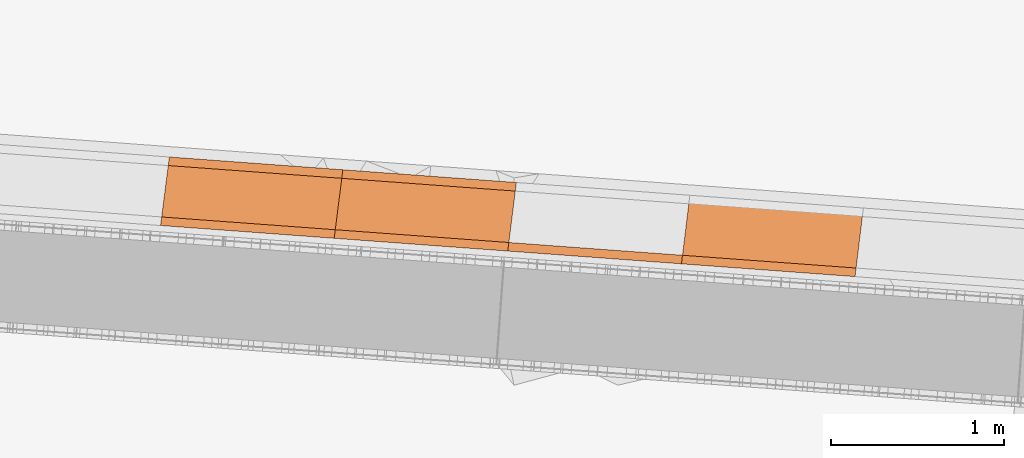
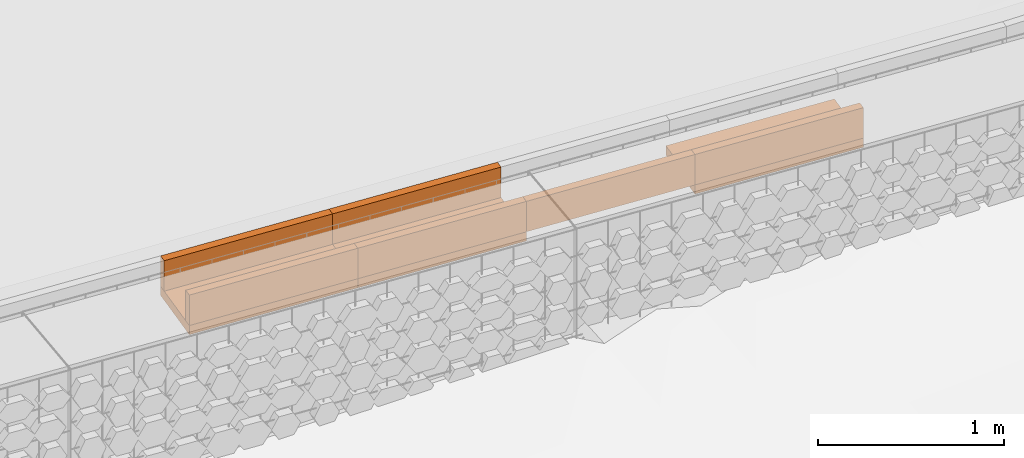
# Not in any storey, part 29 of 45: 9 proxies.
"""IFC4 model written with IfcOpenShell, lengths in metres."""

import ifcopenshell
import ifcopenshell.guid

model = None  # the IFC model being written
_history = None  # IfcOwnerHistory: only IFC2X3 demands one
_inside = {}  # id of a spatial element -> (the spatial element, [elements in it])
_under = {}  # id of a project, library or spatial element -> (it, [spatial elements below it])
_declared = {}  # id of a project -> (the project, [libraries it declares])
_typed = {}  # id of a type object -> (the type object, [elements of that type])
_made_of = {}  # id of a material, layer set ... -> (it, [elements and type objects made of it])


def new_model(schema):
    """Start an empty IFC model of exactly this schema.

    Asked for "IFC4X3", IfcOpenShell would pick the latest addendum, in which some entities
    have other attributes; the version numbers below select the first issue.
    IFC2X3 requires an IfcOwnerHistory on every rooted entity: one is made here for all.
    """
    global model, _history
    if schema == "IFC4X3":
        model = ifcopenshell.file(schema_version=(4, 3, 0, 0))
    else:
        model = ifcopenshell.file(schema=schema)
    _inside.clear()
    _under.clear()
    _declared.clear()
    _typed.clear()
    _made_of.clear()
    _history = None
    if model.schema == "IFC2X3":
        org = make("IfcOrganization", Name="unknown")
        user = make(
            "IfcPersonAndOrganization",
            ThePerson=make("IfcPerson", FamilyName="unknown"),
            TheOrganization=org,
        )
        app = make(
            "IfcApplication",
            ApplicationDeveloper=org,
            Version="unknown",
            ApplicationFullName="unknown",
            ApplicationIdentifier="unknown",
        )
        _history = make(
            "IfcOwnerHistory",
            OwningUser=user,
            OwningApplication=app,
            ChangeAction="ADDED",
            CreationDate=0,
        )
    return model


def make(cls, **values):
    """One entity of the class cls with the attributes given. An attribute that is None is left unset."""
    return model.create_entity(
        cls, **{name: value for name, value in values.items() if value is not None}
    )


def rooted(cls, **values):
    """An entity with a GlobalId (a new one), such as an element, a storey or a relation."""
    return make(cls, GlobalId=ifcopenshell.guid.new(), OwnerHistory=_history, **values)


def si_unit(unit_type, name, prefix=None):
    """IfcSIUnit, for example si_unit("LENGTHUNIT", "METRE", prefix="MILLI")."""
    return make("IfcSIUnit", UnitType=unit_type, Prefix=prefix, Name=name)


def assignment(units):
    """IfcUnitAssignment: the units of a project."""
    return None if units is None else make("IfcUnitAssignment", Units=units)


def point(xyz):
    """IfcCartesianPoint."""
    return None if xyz is None else make("IfcCartesianPoint", Coordinates=xyz)


def direction(xyz):
    """IfcDirection."""
    return None if xyz is None else make("IfcDirection", DirectionRatios=xyz)


def frame(location, z_axis=None, x_axis=None):
    """IfcAxis2Placement3D, a coordinate frame: its origin and axes. An axis left out is left unset."""
    return make(
        "IfcAxis2Placement3D",
        Location=point(location),
        Axis=direction(z_axis),
        RefDirection=direction(x_axis),
    )


def origin_with_axes():
    """The frame at (0, 0, 0) with the z axis (0, 0, 1) and the x axis (1, 0, 0) written out."""
    return frame((0.0, 0.0, 0.0), z_axis=(0.0, 0.0, 1.0), x_axis=(1.0, 0.0, 0.0))


def place(relative_to, where):
    """IfcLocalPlacement: puts the frame where relative to a parent placement (None: the world)."""
    return make(
        "IfcLocalPlacement", PlacementRelTo=relative_to, RelativePlacement=where
    )


def context(
    kind, dimensions, precision=None, world=None, true_north=None, identifier=None
):
    """IfcGeometricRepresentationContext, for example the 3D "Model" context."""
    return make(
        "IfcGeometricRepresentationContext",
        ContextIdentifier=identifier,
        ContextType=kind,
        CoordinateSpaceDimension=dimensions,
        Precision=precision,
        WorldCoordinateSystem=world,
        TrueNorth=true_north,
    )


def subcontext(parent, identifier, kind, view, scale=None):
    """IfcGeometricRepresentationSubContext, for example "Body" below "Model"."""
    return make(
        "IfcGeometricRepresentationSubContext",
        ContextIdentifier=identifier,
        ContextType=kind,
        ParentContext=parent,
        TargetScale=scale,
        TargetView=view,
    )


def project(units=None, contexts=None):
    """IfcProject with its units and contexts."""
    return rooted(
        "IfcProject",
        Name="project",
        RepresentationContexts=contexts,
        UnitsInContext=assignment(units),
    )


def spatial(cls, under=None, at=None, **own):
    """A site, building, storey or space (cls), placed at a placement, below another one or the project."""
    s = rooted(cls, ObjectPlacement=at, **own)
    if under is not None:
        _under.setdefault(under.id(), (under, []))[1].append(s)
    return s


def point_list(points):
    """IfcCartesianPointList2D or 3D."""
    cls = (
        "IfcCartesianPointList2D" if len(points[0]) == 2 else "IfcCartesianPointList3D"
    )
    return make(cls, CoordList=points)


def polygons(points, faces, closed=None, point_numbers=None):
    """IfcPolygonalFaceSet: a face is its outer loop, then its inner loops; points numbered from 1."""
    made = []
    for loops in faces:
        if len(loops) == 1:
            made.append(make("IfcIndexedPolygonalFace", CoordIndex=loops[0]))
        else:
            made.append(
                make(
                    "IfcIndexedPolygonalFaceWithVoids",
                    CoordIndex=loops[0],
                    InnerCoordIndices=loops[1:],
                )
            )
    return make(
        "IfcPolygonalFaceSet",
        Coordinates=point_list(points),
        Closed=closed,
        Faces=made,
        PnIndex=point_numbers,
    )


def shape(context_of_items, identifier, shape_type, items):
    """IfcShapeRepresentation: the items that make up one representation, for example the "Body"."""
    return make(
        "IfcShapeRepresentation",
        ContextOfItems=context_of_items,
        RepresentationIdentifier=identifier,
        RepresentationType=shape_type,
        Items=items,
    )


def material(Name=None, Category=None):
    """IfcMaterial."""
    return make("IfcMaterial", Name=Name, Category=Category)


def made_of(thing, what):
    """Note that an element or type object is made of a material, layer set ...; save() writes the relation."""
    if what is not None:
        _made_of.setdefault(what.id(), (what, []))[1].append(thing)
    return thing


def element(
    cls,
    number,
    at=None,
    inside=None,
    cuts=None,
    type_object=None,
    material=None,
    context=None,
    identifier="Body",
    shape_type=None,
    held_by="IfcProductDefinitionShape",
    body=None,
    shapes=None,
    **own,
):
    """One element of the class cls, such as IfcWall. Its Tag is "e" and its number.

    at: its placement. inside: the storey or other place that contains it. cuts: it is an
    opening in that element (IfcRelVoidsElement). A single representation is given by context,
    identifier, shape_type and body (its items); several are given by shapes. held_by: the class
    of the entity that holds the representations. save() writes the other relations.
    """
    e = rooted(cls, Tag="e%d" % number, ObjectPlacement=at, **own)
    if body is not None:
        shapes = [shape(context, identifier, shape_type, body)]
    if shapes is not None:
        e.Representation = make(held_by, Representations=shapes)
    if inside is not None:
        _inside.setdefault(inside.id(), (inside, []))[1].append(e)
    if cuts is not None:
        rooted(
            "IfcRelVoidsElement", RelatingBuildingElement=cuts, RelatedOpeningElement=e
        )
    if type_object is not None:
        _typed.setdefault(type_object.id(), (type_object, []))[1].append(e)
    return made_of(e, material)


def aggregate(whole, parts):
    """IfcRelAggregates: a whole, such as a stair, and the parts it consists of."""
    return rooted("IfcRelAggregates", RelatingObject=whole, RelatedObjects=parts)


def save(model, path):
    """Write the relations noted so far, then the file.

    IfcRelAggregates (storeys below a building ...), IfcRelContainedInSpatialStructure (elements
    in a storey), IfcRelDefinesByType, IfcRelAssociatesMaterial and IfcRelDeclares: one each for
    every whole, place, type object, material and project.
    """
    for whole, parts in _under.values():
        aggregate(whole, parts)
    for where, things in _inside.values():
        rooted(
            "IfcRelContainedInSpatialStructure",
            RelatedElements=things,
            RelatingStructure=where,
        )
    for kind, things in _typed.values():
        rooted("IfcRelDefinesByType", RelatedObjects=things, RelatingType=kind)
    for what, things in _made_of.values():
        rooted("IfcRelAssociatesMaterial", RelatedObjects=things, RelatingMaterial=what)
    for by, libraries in _declared.values():
        rooted("IfcRelDeclares", RelatingContext=by, RelatedDefinitions=libraries)
    model.write(path)


model = new_model("IFC4")

# Units and contexts
model_context = context("Model", 3, precision=1e-05, world=origin_with_axes(), true_north=direction((0.0, 1.0)))
body_context = subcontext(model_context, "Body", "Model", "MODEL_VIEW")
ifc_project = project(units=[si_unit("VOLUMEUNIT", "CUBIC_METRE"), si_unit("LENGTHUNIT", "METRE"), si_unit("AREAUNIT", "SQUARE_METRE")], contexts=[model_context])

# Site
site_placement = place(None, origin_with_axes())
site = spatial("IfcSite", under=ifc_project, at=site_placement, Name="Lares · Rua das Mercês · artigo 4771")

# Proxies
ifc_material = material(Name="Caleiras · betão", Category="concrete")
proxy_1_placement = place(site_placement, frame((0.0, 0.0, 0.0), z_axis=(0.0, 0.0, 1.0), x_axis=(1.0, -1.03767253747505e-17, 0.0)))
element("IfcBuildingElementProxy", 1, at=proxy_1_placement, inside=site, material=ifc_material, Name="Acesso · canal lateral", ObjectType="Acesso · canal lateral", PredefinedType="USERDEFINED", context=body_context, shape_type="Tessellation", body=[
    polygons([(62.6476085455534, 1.56480043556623, 15.234), (62.6982380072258, 1.96158332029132, 15.234), (63.7029604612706, 1.88769966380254, 15.235), (63.6523309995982, 1.49091677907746, 15.235), (62.6476085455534, 1.56480043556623, 15.294), (62.6982380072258, 1.96158332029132, 15.294), (63.7029604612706, 1.88769966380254, 15.295), (63.6523309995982, 1.49091677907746, 15.295)], [[[4, 3, 2, 1]], [[5, 6, 7, 8]], [[1, 2, 6, 5]], [[2, 3, 7, 6]], [[3, 4, 8, 7]], [[4, 1, 5, 8]]]),
])
proxy_2_placement = place(site_placement, frame((0.0, 0.0, 0.0), z_axis=(0.0, 0.0, 1.0), x_axis=(1.0, -1.03767253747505e-17, 0.0)))
element("IfcBuildingElementProxy", 2, at=proxy_2_placement, inside=site, material=ifc_material, Name="Acesso · canal lateral", ObjectType="Acesso · canal lateral", PredefinedType="USERDEFINED", context=body_context, shape_type="Tessellation", body=[
    polygons([(62.6476085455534, 1.56480043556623, 15.294), (62.6539372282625, 1.61439829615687, 15.294), (63.6586596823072, 1.54051463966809, 15.295), (63.6523309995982, 1.49091677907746, 15.295), (62.6476085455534, 1.56480043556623, 15.494), (62.6539372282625, 1.61439829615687, 15.494), (63.6586596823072, 1.54051463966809, 15.495), (63.6523309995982, 1.49091677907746, 15.495)], [[[4, 3, 2, 1]], [[5, 6, 7, 8]], [[1, 2, 6, 5]], [[2, 3, 7, 6]], [[3, 4, 8, 7]], [[4, 1, 5, 8]]]),
])
proxy_3_placement = place(site_placement, frame((0.0, 0.0, 0.0), z_axis=(0.0, 0.0, 1.0), x_axis=(1.0, -1.03767253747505e-17, 0.0)))
element("IfcBuildingElementProxy", 3, at=proxy_3_placement, inside=site, material=ifc_material, Name="Acesso · canal lateral", ObjectType="Acesso · canal lateral", PredefinedType="USERDEFINED", context=body_context, shape_type="Tessellation", body=[
    polygons([(62.6919093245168, 1.91198545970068, 15.294), (62.6982380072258, 1.96158332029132, 15.294), (63.7029604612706, 1.88769966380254, 15.295), (63.6966317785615, 1.83810180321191, 15.295), (62.6919093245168, 1.91198545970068, 15.494), (62.6982380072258, 1.96158332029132, 15.494), (63.7029604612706, 1.88769966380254, 15.495), (63.6966317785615, 1.83810180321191, 15.495)], [[[4, 3, 2, 1]], [[5, 6, 7, 8]], [[1, 2, 6, 5]], [[2, 3, 7, 6]], [[3, 4, 8, 7]], [[4, 1, 5, 8]]]),
])
proxy_4_placement = place(site_placement, frame((0.0, 0.0, 0.0), z_axis=(0.0, 0.0, 1.0), x_axis=(1.0, -1.03767253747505e-17, 0.0)))
element("IfcBuildingElementProxy", 4, at=proxy_4_placement, inside=site, material=ifc_material, Name="Acesso · canal lateral", ObjectType="Acesso · canal lateral", PredefinedType="USERDEFINED", context=body_context, shape_type="Tessellation", body=[
    polygons([(63.6526536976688, 1.49087586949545, 15.235), (63.7026377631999, 1.88774057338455, 15.235), (64.7073722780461, 1.81385608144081, 15.236), (64.657388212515, 1.41699137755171, 15.236), (63.6526536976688, 1.49087586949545, 15.295), (63.7026377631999, 1.88774057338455, 15.295), (64.7073722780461, 1.81385608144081, 15.296), (64.657388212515, 1.41699137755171, 15.296)], [[[4, 3, 2, 1]], [[5, 6, 7, 8]], [[1, 2, 6, 5]], [[2, 3, 7, 6]], [[3, 4, 8, 7]], [[4, 1, 5, 8]]]),
])
proxy_5_placement = place(site_placement, frame((0.0, 0.0, 0.0), z_axis=(0.0, 0.0, 1.0), x_axis=(1.0, -1.03767253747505e-17, 0.0)))
element("IfcBuildingElementProxy", 5, at=proxy_5_placement, inside=site, material=ifc_material, Name="Acesso · canal lateral", ObjectType="Acesso · canal lateral", PredefinedType="USERDEFINED", context=body_context, shape_type="Tessellation", body=[
    polygons([(63.6526536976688, 1.49087586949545, 15.295), (63.6589017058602, 1.54048395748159, 15.295), (64.6636362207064, 1.46659946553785, 15.296), (64.657388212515, 1.41699137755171, 15.296), (63.6526536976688, 1.49087586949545, 15.495), (63.6589017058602, 1.54048395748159, 15.495), (64.6636362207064, 1.46659946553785, 15.496), (64.657388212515, 1.41699137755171, 15.496)], [[[4, 3, 2, 1]], [[5, 6, 7, 8]], [[1, 2, 6, 5]], [[2, 3, 7, 6]], [[3, 4, 8, 7]], [[4, 1, 5, 8]]]),
])
proxy_6_placement = place(site_placement, frame((0.0, 0.0, 0.0), z_axis=(0.0, 0.0, 1.0), x_axis=(1.0, -1.03767253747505e-17, 0.0)))
element("IfcBuildingElementProxy", 6, at=proxy_6_placement, inside=site, material=ifc_material, Name="Acesso · canal lateral", ObjectType="Acesso · canal lateral", PredefinedType="USERDEFINED", context=body_context, shape_type="Tessellation", body=[
    polygons([(63.6963897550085, 1.83813248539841, 15.295), (63.7026377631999, 1.88774057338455, 15.295), (64.7073722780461, 1.81385608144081, 15.296), (64.7011242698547, 1.76424799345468, 15.296), (63.6963897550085, 1.83813248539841, 15.495), (63.7026377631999, 1.88774057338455, 15.495), (64.7073722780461, 1.81385608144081, 15.496), (64.7011242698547, 1.76424799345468, 15.496)], [[[4, 3, 2, 1]], [[5, 6, 7, 8]], [[1, 2, 6, 5]], [[2, 3, 7, 6]], [[3, 4, 8, 7]], [[4, 1, 5, 8]]]),
])
proxy_7_placement = place(site_placement, frame((0.0, 0.0, 0.0), z_axis=(0.0, 0.0, 1.0), x_axis=(1.0, -1.03767253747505e-17, 0.0)))
element("IfcBuildingElementProxy", 7, at=proxy_7_placement, inside=site, material=ifc_material, Name="Acesso · canal lateral", ObjectType="Acesso · canal lateral", PredefinedType="USERDEFINED", context=body_context, shape_type="Tessellation", body=[
    polygons([(64.6577203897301, 1.41694982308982, 15.296), (64.6638853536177, 1.46656829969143, 15.296), (65.6686324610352, 1.39268296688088, 15.297), (65.6624674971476, 1.34306449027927, 15.297), (64.6577203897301, 1.41694982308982, 15.496), (64.6638853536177, 1.46656829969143, 15.496), (65.6686324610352, 1.39268296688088, 15.497), (65.6624674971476, 1.34306449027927, 15.497)], [[[4, 3, 2, 1]], [[5, 6, 7, 8]], [[1, 2, 6, 5]], [[2, 3, 7, 6]], [[3, 4, 8, 7]], [[4, 1, 5, 8]]]),
])
proxy_8_placement = place(site_placement, frame((0.0, 0.0, 0.0), z_axis=(0.0, 0.0, 1.0), x_axis=(1.0, -1.03767253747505e-17, 0.0)))
element("IfcBuildingElementProxy", 8, at=proxy_8_placement, inside=site, material=ifc_material, Name="Acesso · canal lateral", ObjectType="Acesso · canal lateral", PredefinedType="USERDEFINED", context=body_context, shape_type="Tessellation", body=[
    polygons([(65.6628095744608, 1.34302228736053, 15.237), (65.7114451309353, 1.74005450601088, 15.237), (66.7162053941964, 1.66616832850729, 15.238), (66.6675698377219, 1.26913610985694, 15.238), (65.6628095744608, 1.34302228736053, 15.297), (65.7114451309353, 1.74005450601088, 15.297), (66.7162053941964, 1.66616832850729, 15.298), (66.6675698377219, 1.26913610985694, 15.298)], [[[4, 3, 2, 1]], [[5, 6, 7, 8]], [[1, 2, 6, 5]], [[2, 3, 7, 6]], [[3, 4, 8, 7]], [[4, 1, 5, 8]]]),
])
proxy_9_placement = place(site_placement, frame((0.0, 0.0, 0.0), z_axis=(0.0, 0.0, 1.0), x_axis=(1.0, -1.03767253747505e-17, 0.0)))
element("IfcBuildingElementProxy", 9, at=proxy_9_placement, inside=site, material=ifc_material, Name="Acesso · canal lateral", ObjectType="Acesso · canal lateral", PredefinedType="USERDEFINED", context=body_context, shape_type="Tessellation", body=[
    polygons([(65.6628095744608, 1.34302228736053, 15.297), (65.6688890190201, 1.39265131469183, 15.297), (66.6736492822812, 1.31876513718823, 15.298), (66.6675698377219, 1.26913610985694, 15.298), (65.6628095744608, 1.34302228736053, 15.497), (65.6688890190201, 1.39265131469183, 15.497), (66.6736492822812, 1.31876513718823, 15.498), (66.6675698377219, 1.26913610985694, 15.498)], [[[4, 3, 2, 1]], [[5, 6, 7, 8]], [[1, 2, 6, 5]], [[2, 3, 7, 6]], [[3, 4, 8, 7]], [[4, 1, 5, 8]]]),
])

save(model, "model.ifc")
